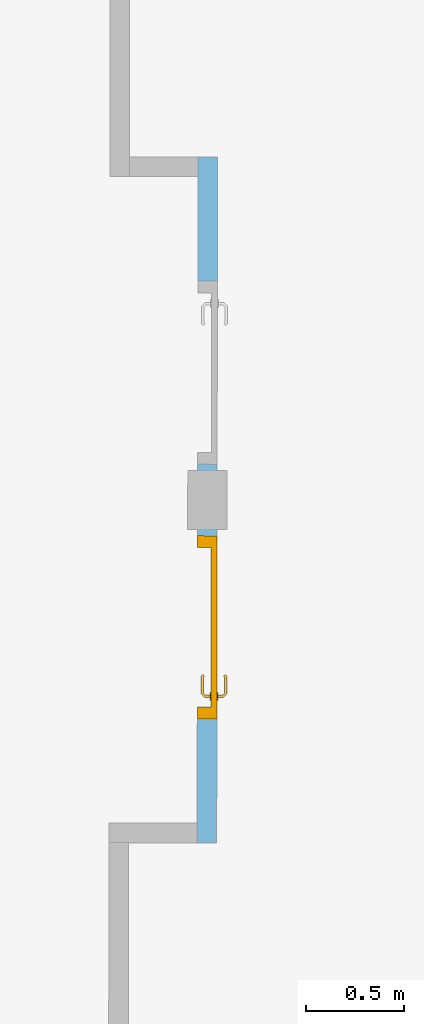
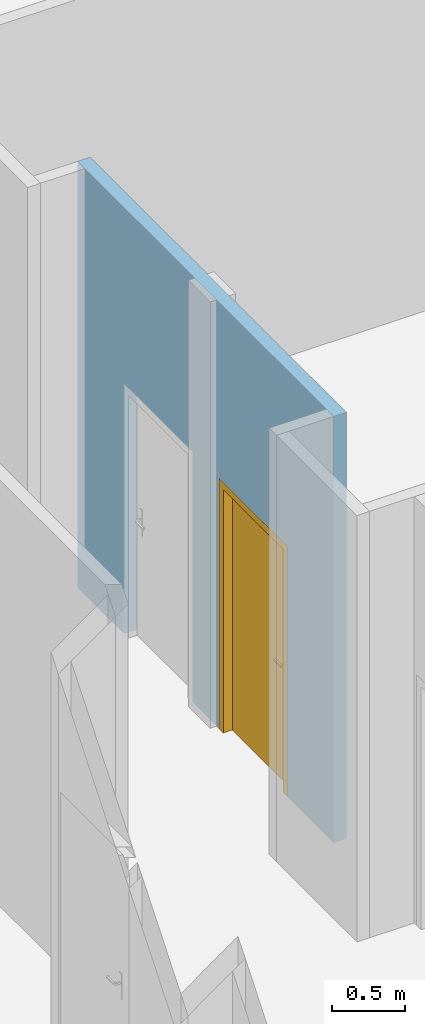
# One storey, part 81 of 101: 1 door, 2 openings, plus 1 element that does not belong to this part.
"""IFC2X3 building model written with IfcOpenShell, lengths in metres."""

from ifc_helpers import new_model, entity, si_unit, converted_unit, derived_unit, direction, frame, frame_2d, origin, place, context, subcontext, project, spatial, rectangle, extrude, faceted_brep, source, transform, mapped, material, material_list, layer, layer_set, layer_usage, type_object, type_shapes, element, fill, save


model = new_model("IFC2X3")

# Units and contexts
model_context = context("Model", 3, precision=1e-05, world=origin(), true_north=direction((6.123233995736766e-17, 1.0)))
body_context = subcontext(model_context, "Body", "Model", "MODEL_VIEW")
ifc_project = project(units=[si_unit("LENGTHUNIT", "METRE"), si_unit("AREAUNIT", "SQUARE_METRE"), converted_unit("PLANEANGLEUNIT", "DEGREE", entity("IfcPlaneAngleMeasure", 0.017453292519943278), si_unit("PLANEANGLEUNIT", "RADIAN"), dimensions=[0, 0, 0, 0, 0, 0, 0]), derived_unit("THERMALTRANSMITTANCEUNIT", [(si_unit("MASSUNIT", "GRAM", prefix="KILO"), 1), (si_unit("THERMODYNAMICTEMPERATUREUNIT", "KELVIN"), -1), (si_unit("TIMEUNIT", "SECOND"), -3)])], contexts=[model_context])

# Site, building, storey
site_placement = place(None, frame((1253.6752467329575, 2072.143113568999, 91.49999999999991), z_axis=(0.0, 0.0, 1.0), x_axis=(0.7237211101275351, 0.6900925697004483, 0.0)))
site = spatial("IfcSite", under=ifc_project, at=site_placement, Name="Surface", CompositionType="ELEMENT")
building_placement = place(site_placement, origin())
building = spatial("IfcBuilding", under=site, at=building_placement, CompositionType="ELEMENT")
storey_placement = place(building_placement, origin())
storey = spatial("IfcBuildingStorey", under=building, at=storey_placement, Name="0- Rdc", CompositionType="ELEMENT", Elevation=-5.764692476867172e-13)

# Wall, openings, door
ifc_material_1 = material(Name="OMD_Béton blanc")
ifc_layer = layer(ifc_material_1, 0.1)
ifc_layer_set = layer_set([ifc_layer], Name="Mur de base:MUR 10")
ifc_layer_usage = layer_usage(ifc_layer_set, "AXIS2", "NEGATIVE", 0.05)
wall_type = type_object("IfcWallType", Name="Mur de base:MUR 10", PredefinedType="STANDARD", material=ifc_layer_set)
wall_placement = place(storey_placement, frame((186.27578160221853, -14.330634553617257, 0.0), z_axis=(0.0, 0.0, 1.0), x_axis=(0.6909838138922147, 0.7228702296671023, 0.0)))
wall = element("IfcWallStandardCase", 1, at=wall_placement, inside=storey, type_object=wall_type, material=ifc_layer_usage, Name="Mur de base:MUR 10", ObjectType="Mur de base:MUR 10", context=body_context, shape_type="SweptSolid", body=[
    extrude(rectangle(XDim=3.5000000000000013, YDim=0.10000000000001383, at=frame_2d((1.7500000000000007, -6.591949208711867e-17), x_axis=(-1.0, 0.0))), origin(), (0.0, 0.0, 1.0), 3.5499999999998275),
])
opening_1_placement = place(wall_placement, frame((2.8675000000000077, 0.04999999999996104, 0.0)))
element("IfcOpeningElement", 2, at=opening_1_placement, cuts=wall, Name="OMD_Porte 1V tunnel:80x204:1", ObjectType="Opening", context=body_context, shape_type="SweptSolid", body=[
    extrude(rectangle(XDim=2.0850000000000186, YDim=0.9349999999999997, at=frame_2d((1.0425000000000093, 0.46750000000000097), x_axis=(1.0, 0.0))), frame((0.0, 0.0, 0.0), z_axis=(0.0, -1.0, 0.0), x_axis=(0.0, 0.0, 1.0)), (0.0, 0.0, 1.0), 0.09999999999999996),
])
opening_2_placement = place(wall_placement, frame((1.5675000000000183, 0.04999999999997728, 0.0)))
opening_2 = element("IfcOpeningElement", 3, at=opening_2_placement, cuts=wall, Name="OMD_Porte 1V tunnel:80x204:1", ObjectType="Opening", context=body_context, shape_type="SweptSolid", body=[
    extrude(rectangle(XDim=2.0850000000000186, YDim=0.9349999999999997, at=frame_2d((1.0425000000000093, 0.46749999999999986), x_axis=(1.0, 0.0))), frame((0.0, 0.0, 0.0), z_axis=(0.0, -1.0, 0.0), x_axis=(0.0, 0.0, 1.0)), (0.0, 0.0, 1.0), 0.09999999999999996),
])
ifc_material_2 = material(Name="Porte - Poignée")
ifc_material_3 = material(Name="OMD_Peinture mur")
ifc_material_4 = material(Name="OMD_Bois")
ifc_material_list = material_list([ifc_material_2, ifc_material_3, ifc_material_4])
door_style = type_object("IfcDoorStyle", Name="OMD_Porte 1V tunnel:80x204", ConstructionType="NOTDEFINED", OperationType="NOTDEFINED", ParameterTakesPrecedence=False, Sizeable=False, material=ifc_material_list)
shared_shape = source(origin(), body_context, "Body", "Brep", [
    faceted_brep([(0.21297470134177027, 0.03500000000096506, 1.0077804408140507), (0.20900000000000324, 0.03500000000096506, 1.0069999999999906), (0.208999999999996, 0.03500000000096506, 0.9929999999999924), (0.21297470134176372, 0.03500000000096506, 0.9922195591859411), (0.21702529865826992, 0.03500000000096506, 0.9922195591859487), (0.22100000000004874, 0.03500000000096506, 0.9930000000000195), (0.22100000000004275, 0.03500000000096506, 1.0069999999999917), (0.2170252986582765, 0.03500000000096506, 1.007780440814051), (0.22100000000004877, 0.05748520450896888, 0.9930000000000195), (0.22100000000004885, 0.057485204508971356, 1.0069999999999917), (0.21702529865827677, 0.059131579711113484, 1.007780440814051), (0.23083890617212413, 0.07294518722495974, 1.007780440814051), (0.2291610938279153, 0.07699578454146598, 1.0077804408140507), (0.21297470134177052, 0.060809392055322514, 1.0077804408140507), (0.3206847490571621, 0.0664673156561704, 1.0077804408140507), (0.32354895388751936, 0.06933152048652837, 1.0077804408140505), (0.31588468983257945, 0.07699578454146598, 1.0077804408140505), (0.31420687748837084, 0.07294518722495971, 1.0077804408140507), (0.20900000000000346, 0.06245576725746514, 1.0069999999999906), (0.20900000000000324, 0.06245576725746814, 0.9929999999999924), (0.21297470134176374, 0.06080939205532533, 0.9922195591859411), (0.22916109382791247, 0.07699578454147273, 0.9922195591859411), (0.23083890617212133, 0.07294518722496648, 0.9922195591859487), (0.21702529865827, 0.05913157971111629, 0.9922195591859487), (0.32354895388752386, 0.06933152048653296, 0.9922195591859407), (0.3206847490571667, 0.06646731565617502, 0.9922195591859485), (0.3142068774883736, 0.07294518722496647, 0.9922195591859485), (0.3158846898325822, 0.07699578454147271, 0.9922195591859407), (0.23248528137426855, 0.0689704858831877, 0.9930000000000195), (0.23248528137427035, 0.06897048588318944, 1.0069999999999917), (0.22751471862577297, 0.0809704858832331, 1.0069999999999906), (0.22751471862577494, 0.08097048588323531, 0.9929999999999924), (0.2725228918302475, 0.06897048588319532, 0.9930000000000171), (0.3125605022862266, 0.06897048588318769, 0.9930000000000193), (0.31256050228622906, 0.06897048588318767, 1.0069999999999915), (0.2725228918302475, 0.0689704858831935, 1.0069999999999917), (0.2725228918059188, 0.07512492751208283, 1.0078781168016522), (0.31753106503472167, 0.08097048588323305, 1.0069999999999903), (0.2776005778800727, 0.08097048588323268, 1.0069999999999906), (0.31753106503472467, 0.08097048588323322, 0.9929999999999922), (0.2674452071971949, 0.08097048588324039, 0.9929999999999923), (0.2725228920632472, 0.07512492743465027, 0.9921218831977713), (0.317874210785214, 0.06365677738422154, 0.9930000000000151), (0.32635949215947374, 0.07214205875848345, 0.99299999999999), (0.3263594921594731, 0.07214205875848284, 1.0069999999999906), (0.317874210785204, 0.06365677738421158, 1.0069999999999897)], [[[0, 1, 2, 3, 4, 5, 6, 7]], [[6, 5, 8, 9]], [[9, 10, 7, 6]], [[10, 11, 12, 13, 0, 7]], [[14, 15, 16, 17]], [[13, 18, 1, 0]], [[2, 1, 18, 19]], [[19, 20, 3, 2]], [[20, 21, 22, 23, 4, 3]], [[24, 25, 26, 27]], [[23, 8, 5, 4]], [[9, 8, 28, 29]], [[29, 11, 10, 9]], [[12, 30, 18, 13]], [[19, 18, 30, 31]], [[31, 21, 20, 19]], [[22, 28, 8, 23]], [[29, 28, 32, 33, 34, 35]], [[11, 35, 36]], [[16, 37, 38]], [[30, 12, 38]], [[38, 12, 36]], [[36, 35, 17]], [[17, 16, 36]], [[35, 11, 29]], [[34, 17, 35]], [[11, 36, 12]], [[38, 36, 16]], [[31, 30, 38, 37, 39, 40]], [[40, 41, 21]], [[41, 40, 27]], [[21, 31, 40]], [[39, 27, 40]], [[41, 32, 22]], [[22, 21, 41]], [[26, 32, 41]], [[28, 22, 32]], [[32, 26, 33]], [[26, 41, 27]], [[42, 25, 24, 43, 44, 15, 14, 45]], [[34, 33, 42, 45]], [[45, 14, 17, 34]], [[15, 44, 37, 16]], [[39, 37, 44, 43]], [[43, 24, 27, 39]], [[25, 42, 33, 26]]]),
    faceted_brep([(0.21297470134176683, -0.004999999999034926, 1.0077804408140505), (0.2170252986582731, -0.004999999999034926, 1.007780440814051), (0.2210000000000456, -0.004999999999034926, 1.006999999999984), (0.22100000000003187, -0.004999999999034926, 0.9930000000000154), (0.21702529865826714, -0.004999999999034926, 0.9922195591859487), (0.21297470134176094, -0.004999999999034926, 0.992219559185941), (0.20900000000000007, -0.004999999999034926, 0.992999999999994), (0.20900000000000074, -0.004999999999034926, 1.0069999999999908), (0.20900000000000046, -0.03265095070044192, 1.0069999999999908), (0.21297470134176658, -0.03100457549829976, 1.0077804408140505), (0.22902358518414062, -0.04705345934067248, 1.0077804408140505), (0.2307013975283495, -0.04300286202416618, 1.007780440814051), (0.21702529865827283, -0.02932676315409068, 1.007780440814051), (0.3235218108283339, -0.039389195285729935, 1.0077804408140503), (0.3206576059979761, -0.03652499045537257, 1.0077804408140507), (0.3141797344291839, -0.04300286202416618, 1.0077804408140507), (0.31585754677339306, -0.04705345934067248, 1.0077804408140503), (0.22100000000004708, -0.027680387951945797, 1.0069999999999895), (0.22100000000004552, -0.02768038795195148, 0.9930000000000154), (0.21702529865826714, -0.029326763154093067, 0.9922195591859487), (0.23070139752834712, -0.04300286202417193, 0.9922195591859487), (0.2290235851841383, -0.0470534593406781, 0.992219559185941), (0.21297470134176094, -0.031004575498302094, 0.992219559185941), (0.32065760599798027, -0.036524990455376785, 0.9922195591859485), (0.3235218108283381, -0.03938919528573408, 0.9922195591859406), (0.31585754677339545, -0.047053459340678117, 0.9922195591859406), (0.3141797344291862, -0.04300286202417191, 0.9922195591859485), (0.20899999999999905, -0.032650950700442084, 0.9929999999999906), (0.22737720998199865, -0.051028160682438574, 1.0069999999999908), (0.23234777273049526, -0.03902816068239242, 1.0069999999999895), (0.23234777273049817, -0.03902816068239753, 0.9930000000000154), (0.22737720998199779, -0.051028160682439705, 0.9929999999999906), (0.2673076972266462, -0.05102816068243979, 1.0069999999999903), (0.272440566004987, -0.0451828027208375, 1.0078781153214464), (0.3175039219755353, -0.05102816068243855, 1.0069999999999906), (0.27244056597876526, -0.039028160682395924, 1.0069999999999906), (0.3125333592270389, -0.03902816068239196, 1.0069999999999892), (0.31253335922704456, -0.03902816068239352, 0.9930000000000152), (0.27244056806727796, -0.03902816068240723, 0.9930000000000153), (0.27244056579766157, -0.04518280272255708, 0.9921218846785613), (0.3175039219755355, -0.051028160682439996, 0.9929999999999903), (0.27757344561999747, -0.051028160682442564, 0.9929999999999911), (0.3178470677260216, -0.03371445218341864, 1.0069999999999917), (0.3263323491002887, -0.04219973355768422, 1.0069999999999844), (0.3263323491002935, -0.04219973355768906, 0.9929999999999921), (0.31784706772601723, -0.033714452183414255, 0.9930000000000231)], [[[0, 1, 2, 3, 4, 5, 6, 7]], [[8, 9, 0, 7]], [[9, 10, 11, 12, 1, 0]], [[13, 14, 15, 16]], [[12, 17, 2, 1]], [[3, 2, 17, 18]], [[18, 19, 4, 3]], [[19, 20, 21, 22, 5, 4]], [[23, 24, 25, 26]], [[22, 27, 6, 5]], [[7, 6, 27, 8]], [[28, 10, 9, 8]], [[11, 29, 17, 12]], [[18, 17, 29, 30]], [[30, 20, 19, 18]], [[21, 31, 27, 22]], [[8, 27, 31, 28]], [[32, 33, 10]], [[33, 32, 16]], [[10, 28, 32]], [[34, 16, 32]], [[33, 35, 11]], [[11, 10, 33]], [[15, 35, 33]], [[29, 11, 35]], [[35, 15, 36]], [[15, 33, 16]], [[30, 29, 35, 36, 37, 38]], [[20, 38, 39]], [[25, 40, 41]], [[31, 21, 41]], [[41, 21, 39]], [[39, 38, 26]], [[26, 25, 39]], [[38, 20, 30]], [[37, 26, 38]], [[20, 39, 21]], [[41, 39, 25]], [[28, 31, 41, 40, 34, 32]], [[42, 14, 13, 43, 44, 24, 23, 45]], [[43, 13, 16, 34]], [[14, 42, 36, 15]], [[37, 36, 42, 45]], [[45, 23, 26, 37]], [[24, 44, 40, 25]], [[34, 40, 44, 43]]]),
    faceted_brep([(0.22535276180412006, 0.030000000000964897, 0.8660039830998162), (0.2350000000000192, 0.030000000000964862, 0.8700000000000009), (0.2350000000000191, 0.030000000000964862, 1.0800000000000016), (0.2253527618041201, 0.030000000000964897, 1.0839960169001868), (0.21500000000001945, 0.030000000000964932, 1.0853589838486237), (0.20464723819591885, 0.03000000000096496, 1.0839960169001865), (0.19500000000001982, 0.030000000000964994, 1.0800000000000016), (0.19500000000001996, 0.030000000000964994, 0.8700000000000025), (0.20464723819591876, 0.03000000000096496, 0.866003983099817), (0.21500000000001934, 0.030000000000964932, 0.8646410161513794), (0.22535276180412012, 0.0350000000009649, 1.0839960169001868), (0.2350000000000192, 0.03500000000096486, 1.0800000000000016), (0.23500000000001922, 0.03500000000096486, 0.8700000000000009), (0.22535276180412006, 0.0350000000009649, 0.8660039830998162), (0.21500000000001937, 0.03500000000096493, 0.8646410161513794), (0.20464723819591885, 0.03500000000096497, 0.866003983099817), (0.19500000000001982, 0.035000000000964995, 0.8700000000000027), (0.19500000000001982, 0.035000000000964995, 1.0800000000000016), (0.20464723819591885, 0.03500000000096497, 1.0839960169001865), (0.21500000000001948, 0.03500000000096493, 1.0853589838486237)], [[[0, 1, 2, 3, 4, 5, 6, 7, 8, 9]], [[10, 11, 12, 13, 14, 15, 16, 17, 18, 19]], [[11, 10, 3, 2]], [[3, 10, 19, 4]], [[19, 18, 5, 4]], [[18, 17, 6, 5]], [[7, 6, 17, 16]], [[16, 15, 8, 7]], [[8, 15, 14, 9]], [[14, 13, 0, 9]], [[13, 12, 1, 0]], [[2, 1, 12, 11]]]),
    faceted_brep([(0.22535276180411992, -0.004999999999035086, 0.8660039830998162), (0.2350000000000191, -0.004999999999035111, 0.8700000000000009), (0.23500000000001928, -0.004999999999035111, 1.0800000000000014), (0.22535276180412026, -0.004999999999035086, 1.0839960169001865), (0.2150000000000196, -0.004999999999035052, 1.0853589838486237), (0.20464723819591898, -0.0049999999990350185, 1.0839960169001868), (0.19500000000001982, -0.004999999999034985, 1.0800000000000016), (0.19500000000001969, -0.004999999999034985, 0.8700000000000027), (0.20464723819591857, -0.0049999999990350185, 0.8660039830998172), (0.21500000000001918, -0.004999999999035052, 0.8646410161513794), (0.22535276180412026, 0.0, 1.0839960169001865), (0.2350000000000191, 0.0, 1.0800000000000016), (0.2350000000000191, 0.0, 0.8700000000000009), (0.22535276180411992, 0.0, 0.8660039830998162), (0.21500000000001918, 0.0, 0.8646410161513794), (0.20464723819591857, 0.0, 0.8660039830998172), (0.19500000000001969, 0.0, 0.8700000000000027), (0.19500000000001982, 0.0, 1.0800000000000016), (0.20464723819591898, 0.0, 1.0839960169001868), (0.2150000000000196, 0.0, 1.0853589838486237)], [[[0, 1, 2, 3, 4, 5, 6, 7, 8, 9]], [[10, 11, 12, 13, 14, 15, 16, 17, 18, 19]], [[16, 15, 8, 7]], [[8, 15, 14, 9]], [[14, 13, 0, 9]], [[13, 12, 1, 0]], [[2, 1, 12, 11]], [[11, 10, 3, 2]], [[3, 10, 19, 4]], [[19, 18, 5, 4]], [[18, 17, 6, 5]], [[7, 6, 17, 16]]]),
    faceted_brep([(0.14500000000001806, 0.030000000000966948, 0.0), (0.9900000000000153, 0.030000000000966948, 0.0), (0.9900000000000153, 0.0, 0.0), (0.14500000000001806, 0.0, 0.0), (0.14500000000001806, 0.030000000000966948, 2.04), (0.14500000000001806, 0.0, 2.04), (0.9900000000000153, 0.0, 2.04), (0.9900000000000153, 0.030000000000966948, 2.04)], [[[0, 1, 2, 3]], [[4, 0, 3, 5]], [[5, 3, 2, 6]], [[6, 2, 1, 7]], [[7, 1, 0, 4]], [[4, 5, 6, 7]]]),
    faceted_brep([(0.10000000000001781, 0.0, 0.0), (0.10000000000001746, 0.10000000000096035, 0.0), (0.16000000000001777, 0.10000000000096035, 0.0), (0.16000000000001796, 0.03000000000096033, 0.0), (0.145000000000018, 0.03000000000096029, 0.0), (0.14500000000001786, 0.0, 0.0), (0.145000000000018, 0.0, 2.04), (0.9900000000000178, 0.0, 2.0400000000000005), (0.9900000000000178, 0.0, 0.0), (1.0350000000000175, 0.0, 0.0), (1.0350000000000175, 0.0, 2.085), (0.10000000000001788, 0.0, 2.085), (0.14500000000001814, 0.030000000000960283, 2.04), (0.16000000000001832, 0.03000000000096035, 2.0249999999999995), (0.9750000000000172, 0.03000000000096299, 2.0249999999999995), (0.9750000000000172, 0.03000000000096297, 0.0), (0.9900000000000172, 0.03000000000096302, 0.0), (0.9900000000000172, 0.03000000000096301, 2.0399999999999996), (0.16000000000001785, 0.10000000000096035, 2.0249999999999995), (0.1000000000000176, 0.10000000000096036, 2.085), (1.0350000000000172, 0.10000000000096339, 2.085), (1.0350000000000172, 0.10000000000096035, 0.0), (0.9750000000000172, 0.10000000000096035, 0.0), (0.9750000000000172, 0.10000000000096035, 2.025)], [[[0, 1, 2, 3, 4, 5]], [[5, 6, 7, 8, 9, 10, 11, 0]], [[4, 12, 6, 5]], [[3, 13, 14, 15, 16, 17, 12, 4]], [[2, 18, 13, 3]], [[1, 19, 20, 21, 22, 23, 18, 2]], [[0, 11, 19, 1]], [[10, 9, 21, 20]], [[9, 8, 16, 15, 22, 21]], [[17, 16, 8, 7]], [[23, 22, 15, 14]], [[12, 17, 7, 6]], [[18, 23, 14, 13]], [[11, 10, 20, 19]]]),
])
type_shapes(door_style, [shared_shape])
door_placement = place(opening_2_placement, frame((-1.035000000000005, -0.10000000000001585, 0.0)))
door = element("IfcDoor", 4, at=door_placement, inside=storey, type_object=door_style, material=ifc_material_list, Name="OMD_Porte 1V tunnel:80x204", ObjectType="OMD_Porte 1V tunnel:80x204", OverallHeight=2.0850000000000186, OverallWidth=0.9350000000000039, context=body_context, shape_type="MappedRepresentation", body=[
    mapped(shared_shape, transform((0.0, 0.0, 0.0), scale=1.0)),
])
fill(opening_2, door)

save(model, "model.ifc")
